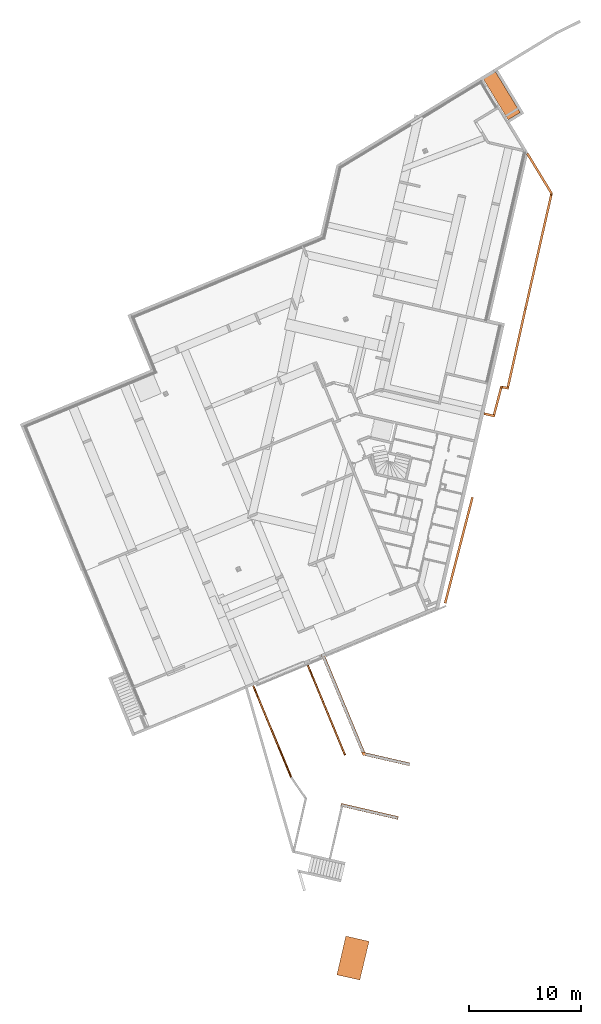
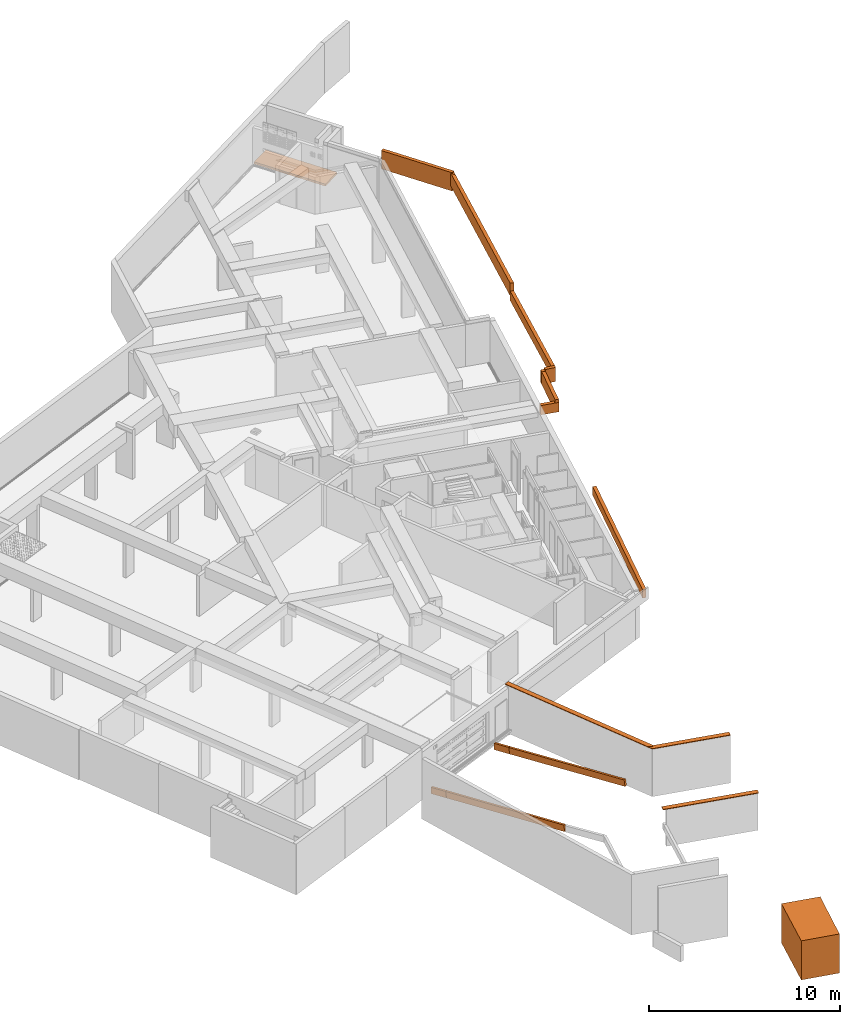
# One storey, part 20 of 20: 16 proxies.
"""IFC2X3 building model written with IfcOpenShell, lengths in metres."""

from ifc_helpers import new_model, entity, si_unit, converted_unit, derived_unit, money_unit, direction, frame, origin_with_axes, place, context, subcontext, project, spatial, faceted_brep, source, transform, mapped, material, type_object, element, save


model = new_model("IFC2X3")

# Units and contexts
model_context = context("Model", 3, precision=1e-05, world=origin_with_axes(), true_north=direction((0.0, 1.0)))
body_context = subcontext(model_context, "Body", "Model", "MODEL_VIEW")
ifc_project = project(units=[si_unit("LENGTHUNIT", "METRE"), si_unit("AREAUNIT", "SQUARE_METRE"), si_unit("VOLUMEUNIT", "CUBIC_METRE"), converted_unit("PLANEANGLEUNIT", "DEGREE", entity("IfcPlaneAngleMeasure", 0.0174532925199), si_unit("PLANEANGLEUNIT", "RADIAN"), dimensions=[0, 0, 0, 0, 0, 0, 0]), si_unit("SOLIDANGLEUNIT", "STERADIAN"), money_unit("EUR"), converted_unit("TIMEUNIT", "Year", entity("IfcTimeMeasure", 31556926.0), si_unit("TIMEUNIT", "SECOND"), dimensions=[0, 0, 1, 0, 0, 0, 0]), si_unit("MASSUNIT", "GRAM", prefix="KILO"), si_unit("THERMODYNAMICTEMPERATUREUNIT", "DEGREE_CELSIUS"), si_unit("LUMINOUSINTENSITYUNIT", "LUMEN"), si_unit("ENERGYUNIT", "JOULE", prefix="MEGA"), derived_unit("THERMALCONDUCTANCEUNIT", [(si_unit("POWERUNIT", "WATT"), 1), (si_unit("LENGTHUNIT", "METRE"), -1), (si_unit("THERMODYNAMICTEMPERATUREUNIT", "KELVIN"), -1)]), derived_unit("SPECIFICHEATCAPACITYUNIT", [(si_unit("ENERGYUNIT", "JOULE"), 1), (si_unit("MASSUNIT", "GRAM", prefix="KILO"), -1), (si_unit("THERMODYNAMICTEMPERATUREUNIT", "KELVIN"), -1)]), derived_unit("MASSDENSITYUNIT", [(si_unit("MASSUNIT", "GRAM", prefix="KILO"), 1), (si_unit("VOLUMEUNIT", "CUBIC_METRE"), -1)])], contexts=[model_context])

# Site, building, storey
site_placement = place(None, origin_with_axes())
site = spatial("IfcSite", under=ifc_project, at=site_placement, Name="Site", CompositionType="ELEMENT")
building_placement = place(site_placement, origin_with_axes())
building = spatial("IfcBuilding", under=site, at=building_placement, Name="Bâtiment", CompositionType="ELEMENT")
storey_placement = place(building_placement, frame((0.0, 0.0, -2.9), z_axis=(0.0, 0.0, 1.0), x_axis=(1.0, 0.0, 0.0)))
storey = spatial("IfcBuildingStorey", under=building, at=storey_placement, Name="Sous-sol", CompositionType="ELEMENT", Elevation=-2.9)

# Proxies
ifc_material_1 = material(Name="Volume - Etude")
building_element_proxy_type_1 = type_object("IfcBuildingElementProxyType", Name="Volume - Etude", PredefinedType="NOTDEFINED")
shared_shape = source(origin_with_axes(), body_context, "Body", "Brep", [
    faceted_brep([(2.52531942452, -6.43268094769, 0.4), (2.50238461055, -6.37738407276, 0.0), (2.90048837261, -7.33723026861, 0.0), (2.90048837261, -7.33723026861, 0.4), (2.64706232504, -6.38218712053, 0.4), (2.62412751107, -6.32689024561, 0.0), (3.02223127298, -7.28673644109, 0.0), (3.02223127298, -7.28673644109, 0.4)], [[[0, 1, 2, 3]], [[1, 0, 4, 5]], [[1, 5, 6, 2]], [[7, 3, 2, 6]], [[4, 0, 3, 7]], [[6, 5, 4, 7]]]),
])
for number, where, z_axis, x_axis, name in (
    (1, (-17.7392795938, -20.1480694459, -1.34147352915), (-0.0567054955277, 0.136719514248, 0.988985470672), (0.998383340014, 0.00389784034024, 0.0567054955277), "Forme-017"),
    (2, (-22.6135507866, -21.9690162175, -1.34147352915), (-0.0567054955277, 0.136719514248, 0.988985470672), (0.998383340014, 0.00389784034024, 0.0567054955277), "Forme-017"),
):
    element("IfcBuildingElementProxy", number, at=place(storey_placement, frame(where, z_axis=z_axis, x_axis=x_axis)), inside=storey, type_object=building_element_proxy_type_1, material=ifc_material_1, Name=name, context=body_context, shape_type="MappedRepresentation", body=[
        mapped(shared_shape, transform((0.0, 0.0, 0.0))),
    ])
ifc_material_2 = material(Name="Béton")
building_element_proxy_type_2 = type_object("IfcBuildingElementProxyType", Name="Béton 200", PredefinedType="NOTDEFINED")
proxy_1_placement = place(storey_placement, frame((2.13825703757, -1.68030555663, 1.97), z_axis=(0.0, 0.0, 1.0), x_axis=(-0.254419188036, -0.967094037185, 0.0)))
element("IfcBuildingElementProxy", 3, at=proxy_1_placement, inside=storey, type_object=building_element_proxy_type_2, material=ifc_material_2, Name="M_Ext-007", context=body_context, shape_type="Brep", body=[
    faceted_brep([(2.67255638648, 0.0, 0.6), (2.47246374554, 0.0, 0.6), (2.47246374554, 0.0, 0.0), (0.0, 0.0, 0.0), (0.0, 0.0, 0.798463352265), (2.67255638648, 0.0, 0.798463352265), (2.47855184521, -0.2, 0.6), (2.67255638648, -0.2, 0.6), (2.47855184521, -0.2, 0.0), (0.0164692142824, -0.2, 0.0), (0.0164692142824, -0.2, 0.798463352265), (2.67255638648, -0.2, 0.798463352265)], [[[0, 1, 2, 3, 4, 5]], [[6, 1, 0, 7]], [[8, 2, 1, 6]], [[3, 2, 8, 9]], [[3, 9, 10, 4]], [[4, 10, 11, 5]], [[11, 7, 0, 5]], [[8, 6, 7, 11, 10, 9]]]),
])
proxy_2_placement = place(storey_placement, frame((6.65765158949, 15.7289059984, 2.56846335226), z_axis=(0.0, 0.0, 1.0), x_axis=(-0.221182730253, -0.97523238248, 0.0)))
element("IfcBuildingElementProxy", 4, at=proxy_2_placement, inside=storey, type_object=building_element_proxy_type_2, material=ifc_material_2, Name="M_Ext-007", context=body_context, shape_type="Brep", body=[
    faceted_brep([(10.5936691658, -0.2, 0.3), (10.5939707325, -0.2, 0.3), (10.5936691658, 0.0, 0.3), (0.0809466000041, -0.2, 0.0), (10.5939707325, -0.2, 0.0), (10.5936691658, -0.2, 0.808073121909), (0.0809466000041, -0.2, 0.808073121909), (10.5936691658, 0.0, 0.0), (10.5936691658, 0.0, 0.808073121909), (0.287549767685, 0.0, 0.0), (0.287549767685, 0.0, 0.808073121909)], [[[0, 1, 2]], [[3, 4, 1, 0, 5, 6]], [[4, 7, 2, 1]], [[0, 2, 8, 5]], [[9, 7, 4, 3]], [[6, 5, 8, 10]], [[3, 6, 10, 9]], [[8, 2, 7, 9, 10]]]),
])
proxy_3_placement = place(storey_placement, frame((2.70908727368, -1.78128411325, 1.97), z_axis=(0.0, 0.0, 1.0), x_axis=(-0.984711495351, 0.17419319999, 0.0)))
element("IfcBuildingElementProxy", 5, at=proxy_3_placement, inside=storey, type_object=building_element_proxy_type_2, material=ifc_material_2, Name="M_Ext-007", context=body_context, shape_type="Brep", body=[
    faceted_brep([(0.0, -0.2, 0.0), (0.763900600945, -0.2, 0.0), (0.763900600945, -0.2, 0.798463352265), (0.579692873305, -0.2, 0.798463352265), (0.579692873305, -0.2, 0.898463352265), (-0.00899105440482, -0.2, 0.898463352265), (-0.00899105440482, -0.2, 0.298463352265), (0.0, -0.2, 0.298463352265), (0.0, 0.0, 0.0), (0.780369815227, 0.0, 0.0), (0.780369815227, 0.0, 0.798463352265), (0.579692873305, 0.0, 0.798463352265), (0.579692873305, 0.0, 0.898463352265), (0.0, 0.0, 0.898463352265), (0.0, 0.0, 0.298463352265)], [[[0, 1, 2, 3, 4, 5, 6, 7]], [[8, 9, 1, 0]], [[9, 10, 2, 1]], [[3, 2, 10, 11]], [[11, 12, 4, 3]], [[12, 13, 5, 4]], [[14, 6, 5, 13]], [[7, 6, 14]], [[8, 0, 7, 14]], [[11, 10, 9, 8, 14, 13, 12]]]),
])
proxy_4_placement = place(storey_placement, frame((4.31451492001, 5.39761677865, 2.26846335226), z_axis=(0.0, 0.0, 1.0), x_axis=(-0.218240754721, -0.975894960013, 0.0)))
element("IfcBuildingElementProxy", 6, at=proxy_4_placement, inside=storey, type_object=building_element_proxy_type_2, material=ifc_material_2, Name="M_Ext-007", context=body_context, shape_type="Brep", body=[
    faceted_brep([(0.0, 0.0, 0.0), (0.0, 0.0, 0.3), (0.0, 0.0, 0.6), (7.15602094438, 0.0, 0.6), (7.15602094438, 0.0, 0.0), (0.0, -0.2, 0.3), (0.0, -0.2, 0.0), (-0.000301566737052, -0.2, 0.3), (-0.000301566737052, -0.2, 0.6), (7.16501199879, -0.2, 0.6), (7.16501199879, -0.2, 0.0)], [[[0, 1, 2, 3, 4]], [[5, 1, 0, 6]], [[7, 8, 2, 1]], [[3, 2, 8, 9]], [[4, 3, 9, 10]], [[10, 6, 0, 4]], [[5, 7, 1]], [[9, 8, 7, 5, 6, 10]]]),
])
proxy_5_placement = place(storey_placement, frame((1.45830741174, -4.26491890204, 1.97), z_axis=(0.0, 0.0, 1.0), x_axis=(-0.974387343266, 0.224876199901, 0.0)))
element("IfcBuildingElementProxy", 7, at=proxy_5_placement, inside=storey, type_object=building_element_proxy_type_2, material=ifc_material_2, Name="M_Ext-007", context=body_context, shape_type="Brep", body=[
    faceted_brep([(0.990253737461, -0.2, 0.6), (0.990253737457, 0.0, 0.6), (0.0, 0.0, 0.6), (-0.00608809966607, -0.2, 0.6), (0.990253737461, -0.2, 0.0), (0.990253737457, 0.0, 0.0), (0.0, 0.0, 0.0), (-0.00608809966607, -0.2, 0.0)], [[[0, 1, 2, 3]], [[1, 0, 4, 5]], [[1, 5, 6, 2]], [[7, 3, 2, 6]], [[4, 0, 3, 7]], [[5, 4, 7, 6]]]),
])
proxy_6_placement = place(storey_placement, frame((4.46514177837, 19.3362135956, 2.26846335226), z_axis=(0.0, 0.0, 1.0), x_axis=(0.519386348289, -0.854539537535, 0.0)))
element("IfcBuildingElementProxy", 8, at=proxy_6_placement, inside=storey, type_object=building_element_proxy_type_2, material=ifc_material_2, Name="M_Ext-007", context=body_context, shape_type="Brep", body=[
    faceted_brep([(4.22134663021, -0.2, 1.10807312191), (4.42794979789, -0.2, 1.10807312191), (4.22134663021, 0.0, 1.10807312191), (4.22134663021, -0.2, 0.3), (4.42794979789, -0.2, 0.3), (4.22134663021, -0.2, 1.17091198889), (0.0, -0.2, 1.17091198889), (0.0, -0.2, 0.0), (4.22134663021, -0.2, 0.0), (4.22134663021, 0.0, 0.3), (4.22134663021, 0.0, 1.17091198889), (0.0, 0.0, 1.17091198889), (0.0, 0.0, 0.0), (4.22134663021, 0.0, 0.0)], [[[0, 1, 2]], [[3, 4, 1, 0, 5, 6, 7, 8]], [[4, 9, 2, 1]], [[0, 2, 10, 5]], [[3, 9, 4]], [[6, 5, 10, 11]], [[12, 7, 6, 11]], [[12, 13, 8, 7]], [[8, 13, 9, 3]], [[10, 2, 9, 13, 12, 11]]]),
])
proxy_7_placement = place(storey_placement, frame((-2.85474301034, -20.8877256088, 1.68043512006), z_axis=(0.0, 0.0, 1.0), x_axis=(0.250013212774, 0.968242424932, 0.0)))
element("IfcBuildingElementProxy", 9, at=proxy_7_placement, inside=storey, type_object=building_element_proxy_type_2, material=ifc_material_2, Name="M_Ext-007", context=body_context, shape_type="Brep", body=[
    faceted_brep([(0.0, 0.2, 0.0), (9.76647436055, 0.2, 0.0), (9.76647436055, 0.0, 0.0), (0.0, 0.0, 0.0), (0.0, 0.2, 0.549564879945), (9.76647436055, 0.2, 0.549564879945), (9.76647436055, 0.0, 0.549564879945), (0.0, 0.0, 0.549564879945)], [[[0, 1, 2, 3]], [[4, 5, 1, 0]], [[2, 1, 5, 6]], [[3, 2, 6, 7]], [[4, 0, 3, 7]], [[7, 6, 5, 4]]]),
])
ifc_material_3 = material(Name="Béton préfabriqué")
building_element_proxy_type_3 = type_object("IfcBuildingElementProxyType", Name="Couronnement mur 0401163462 280 x 60", PredefinedType="USERDEFINED")
proxy_8_placement = place(storey_placement, frame((-6.09726625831, -35.2643637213, 2.8), z_axis=(0.0, 0.0, 1.0), x_axis=(-0.974623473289, 0.22385058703, 0.0)))
element("IfcBuildingElementProxy", 10, at=proxy_8_placement, inside=storey, type_object=building_element_proxy_type_3, material=ifc_material_3, Name="Chapeau béton préfa", ObjectType="ELEMENTS", context=body_context, shape_type="Brep", body=[
    faceted_brep([(0.0, -0.025, 0.0599999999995), (4.26298316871, -0.0250000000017, 0.06), (4.22736864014, 0.0249999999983, 0.06), (0.0, 0.025, 0.0599999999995), (0.0, -0.14, 0.04), (4.48608726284, -0.14, 0.04), (4.28664590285, 0.14, 0.04), (0.0, 0.14, 0.04), (0.0, 0.14, 0.0), (0.0, -0.14, 0.0), (4.48608726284, -0.14, 0.0), (4.28664590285, 0.14, 0.0)], [[[0, 1, 2, 3]], [[4, 5, 1, 0]], [[5, 6, 2, 1]], [[3, 2, 6, 7]], [[3, 7, 8, 9, 4, 0]], [[9, 10, 5, 4]], [[10, 11, 6, 5]], [[7, 6, 11, 8]], [[8, 11, 10, 9]]]),
])
proxy_9_placement = place(storey_placement, frame((-10.2047996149, -34.3209493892, 2.8), z_axis=(0.0, 0.0, 1.0), x_axis=(-0.383112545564, 0.923701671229, 0.0)))
element("IfcBuildingElementProxy", 11, at=proxy_9_placement, inside=storey, type_object=building_element_proxy_type_3, material=ifc_material_3, Name="Chapeau béton préfa", ObjectType="ELEMENTS", context=body_context, shape_type="Brep", body=[
    faceted_brep([(9.64903677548, -0.025, 0.0599999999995), (0.0128863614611, -0.025, 0.06), (0.0721636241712, -0.14, 0.04), (9.64903677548, -0.14, 0.04), (9.64903677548, 0.025, 0.0599999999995), (0.0485008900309, 0.025, 0.06), (0.271604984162, 0.14, 0.04), (0.072163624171, -0.14, 0.0), (9.64903677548, -0.14, 0.0), (9.64903677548, 0.14, 0.0), (9.64903677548, 0.14, 0.04), (0.271604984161, 0.14, 0.0)], [[[0, 1, 2, 3]], [[4, 5, 1, 0]], [[6, 2, 1, 5]], [[3, 2, 7, 8]], [[0, 3, 8, 9, 10, 4]], [[10, 6, 5, 4]], [[11, 7, 2, 6]], [[8, 7, 11, 9]], [[9, 11, 6, 10]]]),
])
proxy_10_placement = place(storey_placement, frame((-12.2562201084, -38.8688740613, 2.37), z_axis=(0.0, 0.0, 1.0), x_axis=(0.974387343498, -0.224876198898, 0.0)))
element("IfcBuildingElementProxy", 12, at=proxy_10_placement, inside=storey, type_object=building_element_proxy_type_3, material=ifc_material_3, Name="Chapeau béton préfa", ObjectType="ELEMENTS", context=body_context, shape_type="Brep", body=[
    faceted_brep([(0.0, 0.14, 0.0), (5.24088579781, 0.14, 0.0), (5.24088579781, -0.14, 0.0), (0.0, -0.14, 0.0), (0.0, 0.14, 0.04), (5.24088579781, 0.14, 0.04), (5.24088579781, 0.025, 0.0599999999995), (5.24088579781, -0.025, 0.0599999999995), (5.24088579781, -0.14, 0.04), (0.0, -0.14, 0.04), (0.0, -0.025, 0.0599999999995), (0.0, 0.025, 0.0599999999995)], [[[0, 1, 2, 3]], [[4, 5, 1, 0]], [[2, 1, 5, 6, 7, 8]], [[3, 2, 8, 9]], [[4, 0, 3, 9, 10, 11]], [[11, 6, 5, 4]], [[10, 7, 6, 11]], [[9, 8, 7, 10]]]),
])
proxy_11_placement = place(storey_placement, frame((-19.6246079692, -29.1754926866, -0.173857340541), z_axis=(-0.0567054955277, 0.136719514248, 0.988985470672), x_axis=(0.998383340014, 0.00389784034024, 0.0567054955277)))
element("IfcBuildingElementProxy", 13, at=proxy_11_placement, inside=storey, type_object=building_element_proxy_type_1, material=ifc_material_1, Name="Forme-017", context=body_context, shape_type="Brep", body=[
    faceted_brep([(-0.121742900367, -0.0504938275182, 0.4), (-0.121742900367, -0.0504938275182, 0.0), (2.90048837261, -7.33723026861, 0.0), (2.90048837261, -7.33723026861, 0.4), (0.0, 0.0, 0.4), (0.0, 0.0, 0.0), (3.02223127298, -7.28673644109, 0.0), (3.02223127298, -7.28673644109, 0.4)], [[[0, 1, 2, 3]], [[1, 0, 4, 5]], [[1, 5, 6, 2]], [[7, 3, 2, 6]], [[4, 0, 3, 7]], [[5, 4, 7, 6]]]),
])
proxy_12_placement = place(storey_placement, frame((-14.7503367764, -27.354545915, -0.173857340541), z_axis=(-0.0567054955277, 0.136719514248, 0.988985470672), x_axis=(0.998383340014, 0.00389784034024, 0.0567054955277)))
element("IfcBuildingElementProxy", 14, at=proxy_12_placement, inside=storey, type_object=building_element_proxy_type_1, material=ifc_material_1, Name="Forme-017", context=body_context, shape_type="Brep", body=[
    faceted_brep([(-0.121742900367, -0.0504938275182, 0.4), (-0.121742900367, -0.0504938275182, 0.0), (2.83024812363, -7.16787791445, 0.0274390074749), (2.83024812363, -7.16787791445, 0.427439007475), (0.0, 0.0, 0.4), (0.0, 0.0, 0.0), (2.95199102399, -7.11738408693, 0.0274390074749), (2.95199102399, -7.11738408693, 0.427439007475)], [[[0, 1, 2, 3]], [[1, 0, 4, 5]], [[1, 5, 6, 2]], [[7, 3, 2, 6]], [[4, 0, 3, 7]], [[5, 4, 7, 6]]]),
])
ifc_material_4 = material(Name="Béton DALLAGE")
building_element_proxy_type_4 = type_object("IfcBuildingElementProxyType", Name="Béton DALLAGE 130", PredefinedType="NOTDEFINED")
proxy_13_placement = place(storey_placement, frame((0.458696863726, 25.9280020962, 0.0), z_axis=(0.0, 0.0, 1.0), x_axis=(1.0, 0.0, 0.0)))
element("IfcBuildingElementProxy", 15, at=proxy_13_placement, inside=storey, type_object=building_element_proxy_type_4, material=ifc_material_4, Name="Dalle_002", context=body_context, shape_type="Brep", body=[
    faceted_brep([(0.0, 0.0, 0.0), (0.0, 0.0, -0.13), (2.213070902, -3.64004361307, -0.13), (2.213070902, -3.64004361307, 0.0), (1.08097595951, 0.657013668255, 0.0), (1.08097595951, 0.657013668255, -0.13), (3.2935618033, -2.98332476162, -0.13), (3.2935618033, -2.98332476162, 0.0)], [[[0, 1, 2, 3]], [[4, 5, 1, 0]], [[2, 1, 5, 6]], [[3, 2, 6, 7]], [[4, 0, 3, 7]], [[7, 6, 5, 4]]]),
])
building_element_proxy_type_5 = type_object("IfcBuildingElementProxyType", Name="Béton 2500", PredefinedType="NOTDEFINED")
proxy_14_placement = place(storey_placement, frame((-11.818620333, -50.587640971, 3.25076639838), z_axis=(0.0, 0.0, 1.0), x_axis=(1.0, 0.0, 0.0)))
element("IfcBuildingElementProxy", 16, at=proxy_14_placement, inside=storey, type_object=building_element_proxy_type_5, material=ifc_material_2, Name="Dalle_004", context=body_context, shape_type="Brep", body=[
    faceted_brep([(0.0, 0.0, 0.0), (0.0, 0.0, -2.5), (-0.800745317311, -3.47206953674, -2.5), (-0.800745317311, -3.47206953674, 0.0), (2.08022753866, -0.47514335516, 0.0), (2.08022753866, -0.47514335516, -2.5), (1.25102060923, -3.92402204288, -2.5), (1.25102060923, -3.92402204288, 0.0)], [[[0, 1, 2, 3]], [[4, 5, 1, 0]], [[2, 1, 5, 6]], [[3, 2, 6, 7]], [[4, 0, 3, 7]], [[7, 6, 5, 4]]]),
])

save(model, "model.ifc")
